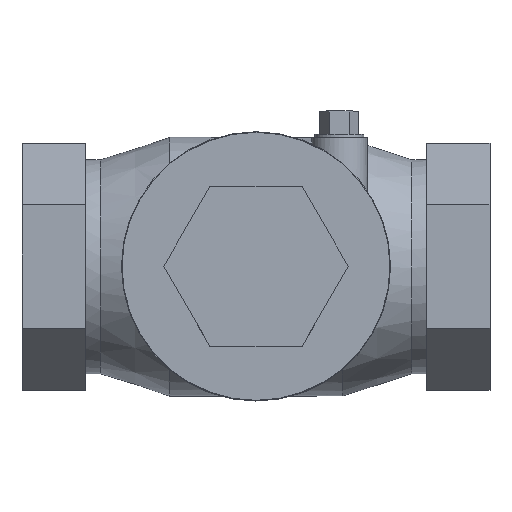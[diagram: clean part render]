
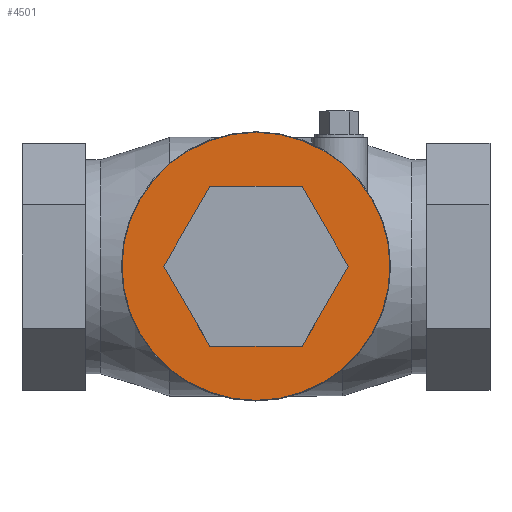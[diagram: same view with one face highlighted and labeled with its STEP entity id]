
A CAD part, top view. The second image highlights one B-rep face of the part: STEP entity #4501.
In plain terms, the highlighted planar face has unit normal (0, 0, 1).
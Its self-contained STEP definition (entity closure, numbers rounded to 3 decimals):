
#78 = CYLINDRICAL_SURFACE('',#79,1.183);
#79 = AXIS2_PLACEMENT_3D('',#80,#81,#82);
#80 = CARTESIAN_POINT('',(2.065,0.,1.845));
#81 = DIRECTION('',(0.,0.,1.));
#82 = DIRECTION('',(1.,0.,-0.));
#3988 = PLANE('',#3989);
#3989 = AXIS2_PLACEMENT_3D('',#3990,#3991,#3992);
#3990 = CARTESIAN_POINT('',(2.065,-0.705,2.02));
#3991 = DIRECTION('',(0.,-1.,0.));
#3992 = DIRECTION('',(1.,0.,0.));
#4013 = VERTEX_POINT('',#4014);
#4014 = CARTESIAN_POINT('',(1.658,-0.705,2.02));
#4028 = PLANE('',#4029);
#4029 = AXIS2_PLACEMENT_3D('',#4030,#4031,#4032);
#4030 = CARTESIAN_POINT('',(1.454,-0.353,2.02));
#4031 = DIRECTION('',(-0.866,-0.5,0.));
#4032 = DIRECTION('',(0.5,-0.866,0.));
#4040 = EDGE_CURVE('',#4041,#4013,#4043,.T.);
#4041 = VERTEX_POINT('',#4042);
#4042 = CARTESIAN_POINT('',(2.472,-0.705,2.02));
#4043 = SURFACE_CURVE('',#4044,(#4048,#4055),.PCURVE_S1.);
#4044 = LINE('',#4045,#4046);
#4045 = CARTESIAN_POINT('',(2.065,-0.705,2.02));
#4046 = VECTOR('',#4047,1.);
#4047 = DIRECTION('',(-1.,0.,0.));
#4048 = PCURVE('',#3988,#4049);
#4049 = DEFINITIONAL_REPRESENTATION('',(#4050),#4054);
#4050 = LINE('',#4051,#4052);
#4051 = CARTESIAN_POINT('',(0.,0.));
#4052 = VECTOR('',#4053,1.);
#4053 = DIRECTION('',(-1.,0.));
#4054 = ( GEOMETRIC_REPRESENTATION_CONTEXT(2) 
PARAMETRIC_REPRESENTATION_CONTEXT() REPRESENTATION_CONTEXT('2D SPACE',''
  ) );
#4055 = PCURVE('',#4056,#4061);
#4056 = PLANE('',#4057);
#4057 = AXIS2_PLACEMENT_3D('',#4058,#4059,#4060);
#4058 = CARTESIAN_POINT('',(2.065,0.,2.02));
#4059 = DIRECTION('',(0.,0.,1.));
#4060 = DIRECTION('',(1.,0.,-0.));
#4061 = DEFINITIONAL_REPRESENTATION('',(#4062),#4066);
#4062 = LINE('',#4063,#4064);
#4063 = CARTESIAN_POINT('',(0.,-0.705));
#4064 = VECTOR('',#4065,1.);
#4065 = DIRECTION('',(-1.,0.));
#4066 = ( GEOMETRIC_REPRESENTATION_CONTEXT(2) 
PARAMETRIC_REPRESENTATION_CONTEXT() REPRESENTATION_CONTEXT('2D SPACE',''
  ) );
#4082 = PLANE('',#4083);
#4083 = AXIS2_PLACEMENT_3D('',#4084,#4085,#4086);
#4084 = CARTESIAN_POINT('',(2.676,-0.353,2.02));
#4085 = DIRECTION('',(0.866,-0.5,0.));
#4086 = DIRECTION('',(0.5,0.866,0.));
#4121 = VERTEX_POINT('',#4122);
#4122 = CARTESIAN_POINT('',(1.251,0.,2.02));
#4136 = PLANE('',#4137);
#4137 = AXIS2_PLACEMENT_3D('',#4138,#4139,#4140);
#4138 = CARTESIAN_POINT('',(1.454,0.353,2.02));
#4139 = DIRECTION('',(-0.866,0.5,0.));
#4140 = DIRECTION('',(-0.5,-0.866,0.));
#4148 = EDGE_CURVE('',#4013,#4121,#4149,.T.);
#4149 = SURFACE_CURVE('',#4150,(#4154,#4161),.PCURVE_S1.);
#4150 = LINE('',#4151,#4152);
#4151 = CARTESIAN_POINT('',(1.454,-0.353,2.02));
#4152 = VECTOR('',#4153,1.);
#4153 = DIRECTION('',(-0.5,0.866,0.));
#4154 = PCURVE('',#4028,#4155);
#4155 = DEFINITIONAL_REPRESENTATION('',(#4156),#4160);
#4156 = LINE('',#4157,#4158);
#4157 = CARTESIAN_POINT('',(0.,0.));
#4158 = VECTOR('',#4159,1.);
#4159 = DIRECTION('',(-1.,0.));
#4160 = ( GEOMETRIC_REPRESENTATION_CONTEXT(2) 
PARAMETRIC_REPRESENTATION_CONTEXT() REPRESENTATION_CONTEXT('2D SPACE',''
  ) );
#4161 = PCURVE('',#4056,#4162);
#4162 = DEFINITIONAL_REPRESENTATION('',(#4163),#4167);
#4163 = LINE('',#4164,#4165);
#4164 = CARTESIAN_POINT('',(-0.611,-0.353));
#4165 = VECTOR('',#4166,1.);
#4166 = DIRECTION('',(-0.5,0.866));
#4167 = ( GEOMETRIC_REPRESENTATION_CONTEXT(2) 
PARAMETRIC_REPRESENTATION_CONTEXT() REPRESENTATION_CONTEXT('2D SPACE',''
  ) );
#4197 = VERTEX_POINT('',#4198);
#4198 = CARTESIAN_POINT('',(1.658,0.705,2.02));
#4212 = PLANE('',#4213);
#4213 = AXIS2_PLACEMENT_3D('',#4214,#4215,#4216);
#4214 = CARTESIAN_POINT('',(2.065,0.705,2.02));
#4215 = DIRECTION('',(0.,1.,0.));
#4216 = DIRECTION('',(-1.,0.,0.));
#4224 = EDGE_CURVE('',#4121,#4197,#4225,.T.);
#4225 = SURFACE_CURVE('',#4226,(#4230,#4237),.PCURVE_S1.);
#4226 = LINE('',#4227,#4228);
#4227 = CARTESIAN_POINT('',(1.454,0.353,2.02));
#4228 = VECTOR('',#4229,1.);
#4229 = DIRECTION('',(0.5,0.866,0.));
#4230 = PCURVE('',#4136,#4231);
#4231 = DEFINITIONAL_REPRESENTATION('',(#4232),#4236);
#4232 = LINE('',#4233,#4234);
#4233 = CARTESIAN_POINT('',(0.,0.));
#4234 = VECTOR('',#4235,1.);
#4235 = DIRECTION('',(-1.,0.));
#4236 = ( GEOMETRIC_REPRESENTATION_CONTEXT(2) 
PARAMETRIC_REPRESENTATION_CONTEXT() REPRESENTATION_CONTEXT('2D SPACE',''
  ) );
#4237 = PCURVE('',#4056,#4238);
#4238 = DEFINITIONAL_REPRESENTATION('',(#4239),#4243);
#4239 = LINE('',#4240,#4241);
#4240 = CARTESIAN_POINT('',(-0.611,0.353));
#4241 = VECTOR('',#4242,1.);
#4242 = DIRECTION('',(0.5,0.866));
#4243 = ( GEOMETRIC_REPRESENTATION_CONTEXT(2) 
PARAMETRIC_REPRESENTATION_CONTEXT() REPRESENTATION_CONTEXT('2D SPACE',''
  ) );
#4273 = VERTEX_POINT('',#4274);
#4274 = CARTESIAN_POINT('',(2.472,0.705,2.02));
#4288 = PLANE('',#4289);
#4289 = AXIS2_PLACEMENT_3D('',#4290,#4291,#4292);
#4290 = CARTESIAN_POINT('',(2.676,0.353,2.02));
#4291 = DIRECTION('',(0.866,0.5,0.));
#4292 = DIRECTION('',(-0.5,0.866,0.));
#4300 = EDGE_CURVE('',#4197,#4273,#4301,.T.);
#4301 = SURFACE_CURVE('',#4302,(#4306,#4313),.PCURVE_S1.);
#4302 = LINE('',#4303,#4304);
#4303 = CARTESIAN_POINT('',(2.065,0.705,2.02));
#4304 = VECTOR('',#4305,1.);
#4305 = DIRECTION('',(1.,0.,0.));
#4306 = PCURVE('',#4212,#4307);
#4307 = DEFINITIONAL_REPRESENTATION('',(#4308),#4312);
#4308 = LINE('',#4309,#4310);
#4309 = CARTESIAN_POINT('',(0.,0.));
#4310 = VECTOR('',#4311,1.);
#4311 = DIRECTION('',(-1.,0.));
#4312 = ( GEOMETRIC_REPRESENTATION_CONTEXT(2) 
PARAMETRIC_REPRESENTATION_CONTEXT() REPRESENTATION_CONTEXT('2D SPACE',''
  ) );
#4313 = PCURVE('',#4056,#4314);
#4314 = DEFINITIONAL_REPRESENTATION('',(#4315),#4319);
#4315 = LINE('',#4316,#4317);
#4316 = CARTESIAN_POINT('',(0.,0.705));
#4317 = VECTOR('',#4318,1.);
#4318 = DIRECTION('',(1.,0.));
#4319 = ( GEOMETRIC_REPRESENTATION_CONTEXT(2) 
PARAMETRIC_REPRESENTATION_CONTEXT() REPRESENTATION_CONTEXT('2D SPACE',''
  ) );
#4349 = VERTEX_POINT('',#4350);
#4350 = CARTESIAN_POINT('',(2.879,0.,2.02));
#4371 = EDGE_CURVE('',#4273,#4349,#4372,.T.);
#4372 = SURFACE_CURVE('',#4373,(#4377,#4384),.PCURVE_S1.);
#4373 = LINE('',#4374,#4375);
#4374 = CARTESIAN_POINT('',(2.676,0.353,2.02));
#4375 = VECTOR('',#4376,1.);
#4376 = DIRECTION('',(0.5,-0.866,0.));
#4377 = PCURVE('',#4288,#4378);
#4378 = DEFINITIONAL_REPRESENTATION('',(#4379),#4383);
#4379 = LINE('',#4380,#4381);
#4380 = CARTESIAN_POINT('',(0.,0.));
#4381 = VECTOR('',#4382,1.);
#4382 = DIRECTION('',(-1.,0.));
#4383 = ( GEOMETRIC_REPRESENTATION_CONTEXT(2) 
PARAMETRIC_REPRESENTATION_CONTEXT() REPRESENTATION_CONTEXT('2D SPACE',''
  ) );
#4384 = PCURVE('',#4056,#4385);
#4385 = DEFINITIONAL_REPRESENTATION('',(#4386),#4390);
#4386 = LINE('',#4387,#4388);
#4387 = CARTESIAN_POINT('',(0.611,0.353));
#4388 = VECTOR('',#4389,1.);
#4389 = DIRECTION('',(0.5,-0.866));
#4390 = ( GEOMETRIC_REPRESENTATION_CONTEXT(2) 
PARAMETRIC_REPRESENTATION_CONTEXT() REPRESENTATION_CONTEXT('2D SPACE',''
  ) );
#4418 = EDGE_CURVE('',#4349,#4041,#4419,.T.);
#4419 = SURFACE_CURVE('',#4420,(#4424,#4431),.PCURVE_S1.);
#4420 = LINE('',#4421,#4422);
#4421 = CARTESIAN_POINT('',(2.676,-0.353,2.02));
#4422 = VECTOR('',#4423,1.);
#4423 = DIRECTION('',(-0.5,-0.866,0.));
#4424 = PCURVE('',#4082,#4425);
#4425 = DEFINITIONAL_REPRESENTATION('',(#4426),#4430);
#4426 = LINE('',#4427,#4428);
#4427 = CARTESIAN_POINT('',(0.,0.));
#4428 = VECTOR('',#4429,1.);
#4429 = DIRECTION('',(-1.,0.));
#4430 = ( GEOMETRIC_REPRESENTATION_CONTEXT(2) 
PARAMETRIC_REPRESENTATION_CONTEXT() REPRESENTATION_CONTEXT('2D SPACE',''
  ) );
#4431 = PCURVE('',#4056,#4432);
#4432 = DEFINITIONAL_REPRESENTATION('',(#4433),#4437);
#4433 = LINE('',#4434,#4435);
#4434 = CARTESIAN_POINT('',(0.611,-0.353));
#4435 = VECTOR('',#4436,1.);
#4436 = DIRECTION('',(-0.5,-0.866));
#4437 = ( GEOMETRIC_REPRESENTATION_CONTEXT(2) 
PARAMETRIC_REPRESENTATION_CONTEXT() REPRESENTATION_CONTEXT('2D SPACE',''
  ) );
#4452 = EDGE_CURVE('',#4453,#4453,#4455,.T.);
#4453 = VERTEX_POINT('',#4454);
#4454 = CARTESIAN_POINT('',(3.248,0.,2.02));
#4455 = SURFACE_CURVE('',#4456,(#4461,#4468),.PCURVE_S1.);
#4456 = CIRCLE('',#4457,1.183);
#4457 = AXIS2_PLACEMENT_3D('',#4458,#4459,#4460);
#4458 = CARTESIAN_POINT('',(2.065,0.,2.02));
#4459 = DIRECTION('',(0.,0.,-1.));
#4460 = DIRECTION('',(1.,0.,0.));
#4461 = PCURVE('',#78,#4462);
#4462 = DEFINITIONAL_REPRESENTATION('',(#4463),#4467);
#4463 = LINE('',#4464,#4465);
#4464 = CARTESIAN_POINT('',(6.283,0.175));
#4465 = VECTOR('',#4466,1.);
#4466 = DIRECTION('',(-1.,0.));
#4467 = ( GEOMETRIC_REPRESENTATION_CONTEXT(2) 
PARAMETRIC_REPRESENTATION_CONTEXT() REPRESENTATION_CONTEXT('2D SPACE',''
  ) );
#4468 = PCURVE('',#4056,#4469);
#4469 = DEFINITIONAL_REPRESENTATION('',(#4470),#4478);
#4470 = ( BOUNDED_CURVE() B_SPLINE_CURVE(2,(#4471,#4472,#4473,#4474,
#4475,#4476,#4477),.UNSPECIFIED.,.T.,.F.) B_SPLINE_CURVE_WITH_KNOTS((1,2
    ,2,2,2,1),(-2.094,0.,2.094,4.189,
6.283,8.378),.UNSPECIFIED.) CURVE() 
GEOMETRIC_REPRESENTATION_ITEM() RATIONAL_B_SPLINE_CURVE((1.,0.5,1.,0.5,
1.,0.5,1.)) REPRESENTATION_ITEM('') );
#4471 = CARTESIAN_POINT('',(1.183,0.));
#4472 = CARTESIAN_POINT('',(1.183,-2.048));
#4473 = CARTESIAN_POINT('',(-0.591,-1.024));
#4474 = CARTESIAN_POINT('',(-2.365,0.));
#4475 = CARTESIAN_POINT('',(-0.591,1.024));
#4476 = CARTESIAN_POINT('',(1.183,2.048));
#4477 = CARTESIAN_POINT('',(1.183,0.));
#4478 = ( GEOMETRIC_REPRESENTATION_CONTEXT(2) 
PARAMETRIC_REPRESENTATION_CONTEXT() REPRESENTATION_CONTEXT('2D SPACE',''
  ) );
#4501 = ADVANCED_FACE('',(#4502,#4510),#4056,.T.);
#4502 = FACE_BOUND('',#4503,.T.);
#4503 = EDGE_LOOP('',(#4504,#4505,#4506,#4507,#4508,#4509));
#4504 = ORIENTED_EDGE('',*,*,#4040,.T.);
#4505 = ORIENTED_EDGE('',*,*,#4148,.T.);
#4506 = ORIENTED_EDGE('',*,*,#4224,.T.);
#4507 = ORIENTED_EDGE('',*,*,#4300,.T.);
#4508 = ORIENTED_EDGE('',*,*,#4371,.T.);
#4509 = ORIENTED_EDGE('',*,*,#4418,.T.);
#4510 = FACE_BOUND('',#4511,.T.);
#4511 = EDGE_LOOP('',(#4512));
#4512 = ORIENTED_EDGE('',*,*,#4452,.F.);
